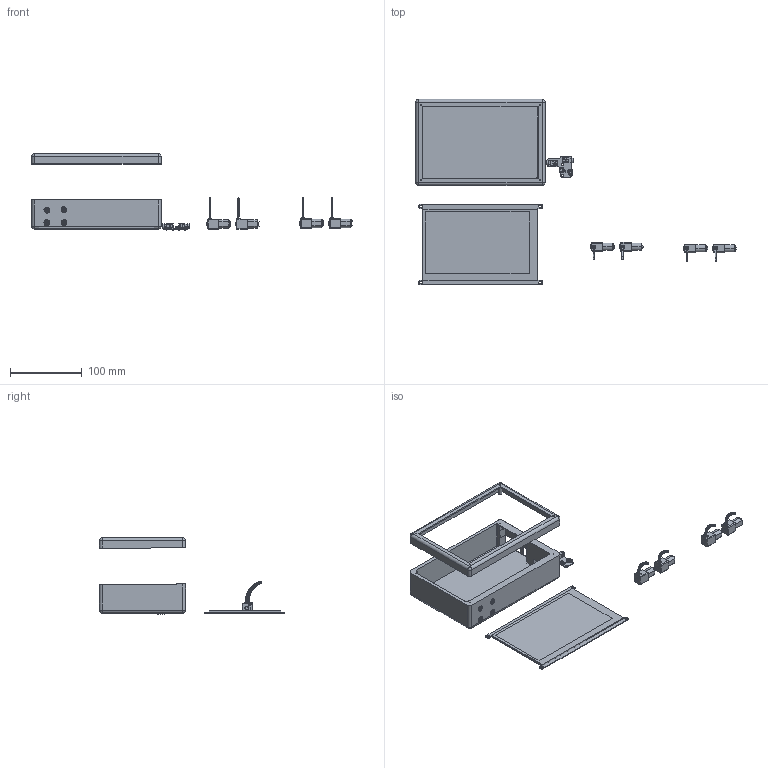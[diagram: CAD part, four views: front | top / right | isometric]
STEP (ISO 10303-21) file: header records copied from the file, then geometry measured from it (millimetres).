
FILE_DESCRIPTION(('HOOPS Exchange Step'),'2;1');
FILE_NAME('/private/var/mobile/Containers/Data/Application/18706132-A872-423C-84A6-D8622FFFF4D3/tmp/export/temp_export.step','2020-05-24T18:11:10+02:00',('mobile'),('Shapr3D Limited'),'HOOPS Exchange 2018.1','Shapr3D','Authorized');
FILE_SCHEMA( ('AP203_CONFIGURATION_CONTROLLED_3D_DESIGN_OF_MECHANICAL_PARTS_AND_ASSEMBLIES_MIM_LF') );
Length unit declared in the file: millimetre
Products named in the file (1): /private/var/mobile/Containers/Data/Application/18706132-A872-423C-84A6-D8622FFFF4D3/tmp/export/temp_export.x_b
Bounding box: 446.3 x 258.1 x 106.71 mm (x, y, z)
Volume: 254260.1 mm3; surface area: 225825.9 mm2
Topology: 64 solids, 67 shells, 3398 faces, 9195 edges, 5527 vertices
Faces by surface type: plane 1334, cylinder 1274, sphere 582, bspline 180, cone 16, torus 12
Full cylindrical faces by diameter (mm): 1 x8, 1.1 x4, 2.554 x4, 3 x4, 3.6 x2, 4 x12, 5 x4, 6 x3, 8 x4
Entity records: 120460 total; most frequent: CARTESIAN_POINT 38625, DIRECTION 17679, ORIENTED_EDGE 16918, EDGE_CURVE 8459, AXIS2_PLACEMENT_3D 6477, VERTEX_POINT 5193, VECTOR 4725, LINE 4725
